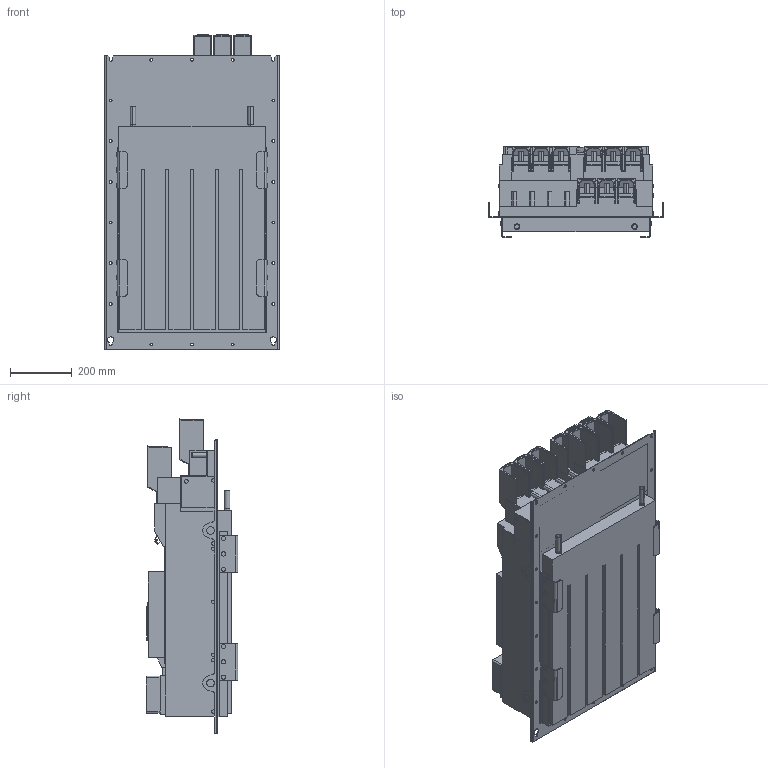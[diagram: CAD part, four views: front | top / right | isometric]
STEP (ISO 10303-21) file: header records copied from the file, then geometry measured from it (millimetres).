
FILE_DESCRIPTION (( 'STEP AP214' ), '1' );
FILE_NAME ('F6-9-TK5-A011.STEP', '2023-11-27T10:18:37', ( '' ), ( '' ), 'SwSTEP 2.0', 'SolidWorks 2022', '' );
FILE_SCHEMA (( 'AUTOMOTIVE_DESIGN' ));
Length unit declared in the file: millimetre
Products named in the file (12): Kundenmodell^10044643_000; 10054881_000_Deckel (Kundenmodell); Kundenmodell mit BW^10068280_000; Kundenmodell^10049764_000; 10064843_000_Kundenmodell mit BW; 10049764_000_Kundenmodell; Kundenmodell^10059764_000; F6-9-TK5-A011; 10068280_000_Kundenmodell mit BW; 10059764_000_Blindabdeckung (Kundenmodell); 10044643_000_Kundenmodell; Kundenmodell^10054881_000
Assembly tree (11 placements, depth 4):
  F6-9-TK5-A011
    10064843_000_Kundenmodell mit BW
      10068280_000_Kundenmodell mit BW
        Kundenmodell mit BW^10068280_000
    10049764_000_Kundenmodell
      Kundenmodell^10049764_000
    10044643_000_Kundenmodell
      10059764_000_Blindabdeckung (Kundenmodell)
        Kundenmodell^10059764_000
      Kundenmodell^10044643_000
    10054881_000_Deckel (Kundenmodell)
      Kundenmodell^10054881_000
Bounding box: 566 x 296.5 x 1024.88 mm (x, y, z)
Volume: 91047377.6 mm3; surface area: 3643501.4 mm2
Topology: 4 solids, 4 shells, 2443 faces, 6356 edges, 3984 vertices
Faces by surface type: plane 1175, cylinder 822, bspline 216, cone 100, sphere 82, torus 48
Entity records: 92163 total; most frequent: CARTESIAN_POINT 26418, ORIENTED_EDGE 14104, DIRECTION 13030, EDGE_CURVE 7052, VERTEX_POINT 4460, AXIS2_PLACEMENT_3D 4369, VECTOR 4292, LINE 4292
